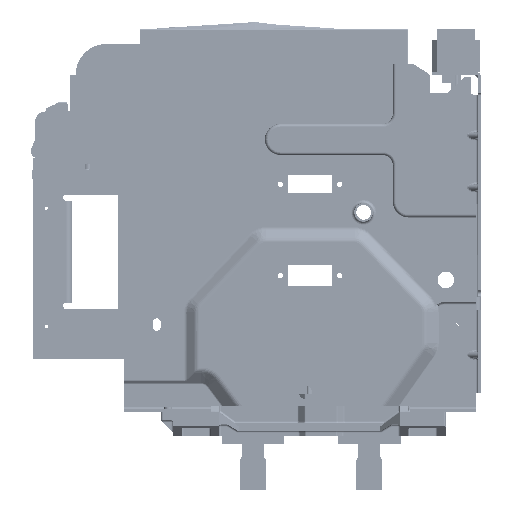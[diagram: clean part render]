
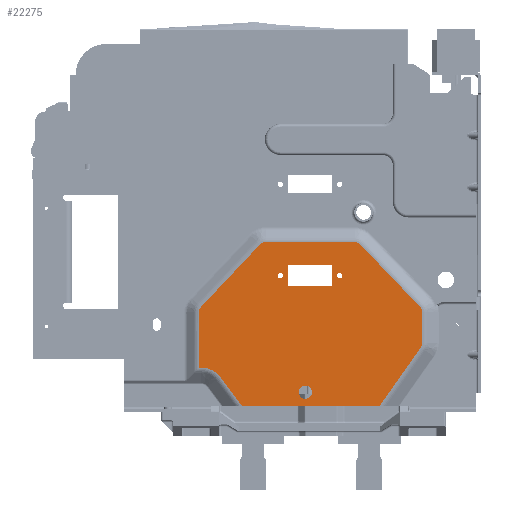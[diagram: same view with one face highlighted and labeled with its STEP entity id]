
A CAD part, left-side view. The second image highlights one B-rep face of the part: STEP entity #22275.
In plain terms, the highlighted planar face has unit normal (-1, 0, 0) as drawn and (0, 1, 0) by its records, which use the part's own axes.
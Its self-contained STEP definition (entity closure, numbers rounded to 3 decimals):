
#14700=CARTESIAN_POINT('',(-110.668,10.5,152.));
#14701=DIRECTION('',(0.,-1.,0.));
#14702=DIRECTION('',(0.,0.,1.));
#14703=AXIS2_PLACEMENT_3D('',#14700,#14701,#14702);
#14726=CARTESIAN_POINT('',(-171.,10.5,118.511));
#14731=DIRECTION('',(-0.818,0.,-0.575));
#14732=VECTOR('',#14731,68.612);
#14733=CARTESIAN_POINT('',(-114.889,10.5,157.997));
#14734=LINE('',#14733,#14732);
#14746=DIRECTION('',(0.,0.,1.));
#14747=VECTOR('',#14746,132.678);
#14748=CARTESIAN_POINT('',(-171.,10.5,-14.167));
#14749=LINE('',#14748,#14747);
#14753=CARTESIAN_POINT('',(-158.,10.5,47.));
#14754=DIRECTION('',(0.,1.,0.));
#14755=DIRECTION('',(1.,0.,0.));
#14756=AXIS2_PLACEMENT_3D('',#14753,#14754,#14755);
#14761=CARTESIAN_POINT('',(-158.,10.5,47.));
#14762=DIRECTION('',(0.,1.,0.));
#14763=DIRECTION('',(-1.,0.,0.));
#14764=AXIS2_PLACEMENT_3D('',#14761,#14762,#14763);
#14769=DIRECTION('',(0.,0.,1.));
#14770=VECTOR('',#14769,43.);
#14771=CARTESIAN_POINT('',(-56.,10.5,30.));
#14772=LINE('',#14771,#14770);
#14776=DIRECTION('',(1.,0.,0.));
#14777=VECTOR('',#14776,20.);
#14778=CARTESIAN_POINT('',(-56.,10.5,73.));
#14779=LINE('',#14778,#14777);
#14783=DIRECTION('',(0.,0.,-1.));
#14784=VECTOR('',#14783,43.);
#14785=CARTESIAN_POINT('',(-36.,10.5,73.));
#14786=LINE('',#14785,#14784);
#14790=DIRECTION('',(-1.,0.,0.));
#14791=VECTOR('',#14790,20.);
#14792=CARTESIAN_POINT('',(-36.,10.5,30.));
#14793=LINE('',#14792,#14791);
#14797=CARTESIAN_POINT('',(-46.,10.5,80.));
#14798=DIRECTION('',(0.,1.,0.));
#14799=DIRECTION('',(1.,0.,0.));
#14800=AXIS2_PLACEMENT_3D('',#14797,#14798,#14799);
#14805=CARTESIAN_POINT('',(-46.,10.5,80.));
#14806=DIRECTION('',(0.,1.,0.));
#14807=DIRECTION('',(-1.,0.,0.));
#14808=AXIS2_PLACEMENT_3D('',#14805,#14806,#14807);
#14813=CARTESIAN_POINT('',(-46.,10.5,23.));
#14814=DIRECTION('',(0.,1.,0.));
#14815=DIRECTION('',(1.,0.,0.));
#14816=AXIS2_PLACEMENT_3D('',#14813,#14814,#14815);
#14821=CARTESIAN_POINT('',(-46.,10.5,23.));
#14822=DIRECTION('',(0.,1.,0.));
#14823=DIRECTION('',(-1.,0.,0.));
#14824=AXIS2_PLACEMENT_3D('',#14821,#14822,#14823);
#14836=DIRECTION('',(1.,0.,0.));
#14837=VECTOR('',#14836,53.382);
#14838=CARTESIAN_POINT('',(-134.333,10.5,-55.333));
#14839=LINE('',#14838,#14837);
#14848=CARTESIAN_POINT('',(-134.333,10.5,-55.333));
#14871=DIRECTION('',(0.,0.,-1.));
#14872=VECTOR('',#14871,2.333);
#14873=CARTESIAN_POINT('',(-134.333,10.5,-53.));
#14874=LINE('',#14873,#14872);
#14901=CARTESIAN_POINT('',(-157.,10.5,-53.));
#14902=DIRECTION('',(0.,1.,0.));
#14903=DIRECTION('',(0.6,0.,0.8));
#14904=AXIS2_PLACEMENT_3D('',#14901,#14902,#14903);
#18551=DIRECTION('',(-1.,0.,0.));
#18552=VECTOR('',#18551,29.632);
#18553=CARTESIAN_POINT('',(-81.036,10.5,159.333));
#18554=LINE('',#18553,#18552);
#18574=CARTESIAN_POINT('',(-81.036,10.5,152.));
#18575=DIRECTION('',(0.,-1.,0.));
#18576=DIRECTION('',(0.692,0.,0.722));
#18577=AXIS2_PLACEMENT_3D('',#18574,#18575,#18576);
#18597=DIRECTION('',(-0.722,0.,0.692));
#18598=VECTOR('',#18597,83.154);
#18599=CARTESIAN_POINT('',(-15.926,10.5,99.76));
#18600=LINE('',#18599,#18598);
#18620=CARTESIAN_POINT('',(-21.,10.5,94.465));
#18621=DIRECTION('',(0.,-1.,0.));
#18622=DIRECTION('',(1.,0.,0.));
#18623=AXIS2_PLACEMENT_3D('',#18620,#18621,#18622);
#18643=DIRECTION('',(0.,0.,1.));
#18644=VECTOR('',#18643,85.844);
#18645=CARTESIAN_POINT('',(-13.667,10.5,8.621));
#18646=LINE('',#18645,#18644);
#18666=CARTESIAN_POINT('',(-21.,10.5,8.621));
#18667=DIRECTION('',(0.,-1.,0.));
#18668=DIRECTION('',(0.687,0.,-0.727));
#18669=AXIS2_PLACEMENT_3D('',#18666,#18667,#18668);
#18689=DIRECTION('',(0.727,0.,0.687));
#18690=VECTOR('',#18689,82.463);
#18691=CARTESIAN_POINT('',(-75.916,10.5,-53.331));
#18692=LINE('',#18691,#18690);
#18712=CARTESIAN_POINT('',(-80.952,10.5,-48.));
#18713=DIRECTION('',(0.,-1.,0.));
#18714=DIRECTION('',(0.,0.,-1.));
#18715=AXIS2_PLACEMENT_3D('',#18712,#18713,#18714);
#19145=DIRECTION('',(0.8,0.,-0.6));
#19146=VECTOR('',#19145,34.5);
#19147=CARTESIAN_POINT('',(-171.,10.5,-14.167));
#19148=LINE('',#19147,#19146);
#19333=VERTEX_POINT('',#14726);
#19334=CARTESIAN_POINT('',(-114.889,10.5,157.997));
#19335=VERTEX_POINT('',#19334);
#19338=CARTESIAN_POINT('',(-110.668,10.5,159.333));
#19339=VERTEX_POINT('',#19338);
#19342=CARTESIAN_POINT('',(-81.036,10.5,159.333));
#19343=VERTEX_POINT('',#19342);
#19346=CARTESIAN_POINT('',(-75.962,10.5,157.295));
#19347=VERTEX_POINT('',#19346);
#19350=CARTESIAN_POINT('',(-15.926,10.5,99.76));
#19351=VERTEX_POINT('',#19350);
#19354=CARTESIAN_POINT('',(-13.667,10.5,94.465));
#19355=VERTEX_POINT('',#19354);
#19358=CARTESIAN_POINT('',(-13.667,10.5,8.621));
#19359=VERTEX_POINT('',#19358);
#19362=CARTESIAN_POINT('',(-15.965,10.5,3.289));
#19363=VERTEX_POINT('',#19362);
#19366=CARTESIAN_POINT('',(-75.916,10.5,-53.331));
#19367=VERTEX_POINT('',#19366);
#19370=CARTESIAN_POINT('',(-80.952,10.5,-55.333));
#19371=VERTEX_POINT('',#19370);
#19376=CARTESIAN_POINT('',(-143.4,10.5,
-34.867));
#19377=CARTESIAN_POINT('',(-134.333,10.5,-53.));
#19378=VERTEX_POINT('',#19376);
#19379=VERTEX_POINT('',#19377);
#19382=CARTESIAN_POINT('',(-171.,10.5,-14.167));
#19383=VERTEX_POINT('',#19382);
#19485=VERTEX_POINT('',#14848);
#19873=CARTESIAN_POINT('',(-151.653,10.5,47.));
#19874=CARTESIAN_POINT('',(-164.347,10.5,47.));
#19875=VERTEX_POINT('',#19873);
#19876=VERTEX_POINT('',#19874);
#19877=CARTESIAN_POINT('',(-56.,10.5,30.));
#19878=CARTESIAN_POINT('',(-56.,10.5,73.));
#19879=VERTEX_POINT('',#19877);
#19880=VERTEX_POINT('',#19878);
#19881=CARTESIAN_POINT('',(-36.,10.5,73.));
#19882=VERTEX_POINT('',#19881);
#19883=CARTESIAN_POINT('',(-36.,10.5,30.));
#19884=VERTEX_POINT('',#19883);
#19937=CARTESIAN_POINT('',(-43.45,10.5,80.));
#19938=CARTESIAN_POINT('',(-48.55,10.5,80.));
#19939=VERTEX_POINT('',#19937);
#19940=VERTEX_POINT('',#19938);
#19941=CARTESIAN_POINT('',(-43.45,10.5,23.));
#19942=CARTESIAN_POINT('',(-48.55,10.5,23.));
#19943=VERTEX_POINT('',#19941);
#19944=VERTEX_POINT('',#19942);
#22213=CARTESIAN_POINT('',(0.,10.5,0.));
#22214=DIRECTION('',(0.,1.,0.));
#22215=DIRECTION('',(1.,0.,0.));
#22216=AXIS2_PLACEMENT_3D('',#22213,#22214,#22215);
#22217=PLANE('',#22216);
#22219=ORIENTED_EDGE('',*,*,#22218,.T.);
#22221=ORIENTED_EDGE('',*,*,#22220,.T.);
#22223=ORIENTED_EDGE('',*,*,#22222,.T.);
#22225=ORIENTED_EDGE('',*,*,#22224,.T.);
#22227=ORIENTED_EDGE('',*,*,#22226,.T.);
#22229=ORIENTED_EDGE('',*,*,#22228,.T.);
#22231=ORIENTED_EDGE('',*,*,#22230,.T.);
#22233=ORIENTED_EDGE('',*,*,#22232,.T.);
#22235=ORIENTED_EDGE('',*,*,#22234,.T.);
#22236=ORIENTED_EDGE('',*,*,#22193,.T.);
#22237=ORIENTED_EDGE('',*,*,#22207,.T.);
#22238=ORIENTED_EDGE('',*,*,#22110,.F.);
#22240=ORIENTED_EDGE('',*,*,#22239,.T.);
#22242=ORIENTED_EDGE('',*,*,#22241,.T.);
#22244=ORIENTED_EDGE('',*,*,#22243,.T.);
#22245=EDGE_LOOP('',(#22219,#22221,#22223,#22225,#22227,#22229,#22231,#22233,
#22235,#22236,#22237,#22238,#22240,#22242,#22244));
#22246=FACE_OUTER_BOUND('',#22245,.F.);
#22248=ORIENTED_EDGE('',*,*,#22247,.T.);
#22250=ORIENTED_EDGE('',*,*,#22249,.T.);
#22251=EDGE_LOOP('',(#22248,#22250));
#22252=FACE_BOUND('',#22251,.F.);
#22254=ORIENTED_EDGE('',*,*,#22253,.T.);
#22256=ORIENTED_EDGE('',*,*,#22255,.T.);
#22258=ORIENTED_EDGE('',*,*,#22257,.T.);
#22260=ORIENTED_EDGE('',*,*,#22259,.T.);
#22261=EDGE_LOOP('',(#22254,#22256,#22258,#22260));
#22262=FACE_BOUND('',#22261,.F.);
#22264=ORIENTED_EDGE('',*,*,#22263,.T.);
#22266=ORIENTED_EDGE('',*,*,#22265,.T.);
#22267=EDGE_LOOP('',(#22264,#22266));
#22268=FACE_BOUND('',#22267,.F.);
#22270=ORIENTED_EDGE('',*,*,#22269,.T.);
#22272=ORIENTED_EDGE('',*,*,#22271,.T.);
#22273=EDGE_LOOP('',(#22270,#22272));
#22274=FACE_BOUND('',#22273,.F.);
#22275=ADVANCED_FACE('',(#22246,#22252,#22262,#22268,#22274),#22217,.T.);
#14704=CIRCLE('',#14703,7.333);
#14757=CIRCLE('',#14756,6.347);
#14765=CIRCLE('',#14764,6.347);
#14801=CIRCLE('',#14800,2.55);
#14809=CIRCLE('',#14808,2.55);
#14817=CIRCLE('',#14816,2.55);
#14825=CIRCLE('',#14824,2.55);
#14905=CIRCLE('',#14904,22.667);
#18578=CIRCLE('',#18577,7.333);
#18624=CIRCLE('',#18623,7.333);
#18670=CIRCLE('',#18669,7.333);
#18716=CIRCLE('',#18715,7.333);
#22110=EDGE_CURVE('',#19383,#19333,#14749,.T.);
#22193=EDGE_CURVE('',#19339,#19335,#14704,.T.);
#22207=EDGE_CURVE('',#19335,#19333,#14734,.T.);
#22218=EDGE_CURVE('',#19485,#19371,#14839,.T.);
#22220=EDGE_CURVE('',#19371,#19367,#18716,.T.);
#22222=EDGE_CURVE('',#19367,#19363,#18692,.T.);
#22224=EDGE_CURVE('',#19363,#19359,#18670,.T.);
#22226=EDGE_CURVE('',#19359,#19355,#18646,.T.);
#22228=EDGE_CURVE('',#19355,#19351,#18624,.T.);
#22230=EDGE_CURVE('',#19351,#19347,#18600,.T.);
#22232=EDGE_CURVE('',#19347,#19343,#18578,.T.);
#22234=EDGE_CURVE('',#19343,#19339,#18554,.T.);
#22239=EDGE_CURVE('',#19383,#19378,#19148,.T.);
#22241=EDGE_CURVE('',#19378,#19379,#14905,.T.);
#22243=EDGE_CURVE('',#19379,#19485,#14874,.T.);
#22247=EDGE_CURVE('',#19875,#19876,#14757,.T.);
#22249=EDGE_CURVE('',#19876,#19875,#14765,.T.);
#22253=EDGE_CURVE('',#19879,#19880,#14772,.T.);
#22255=EDGE_CURVE('',#19880,#19882,#14779,.T.);
#22257=EDGE_CURVE('',#19882,#19884,#14786,.T.);
#22259=EDGE_CURVE('',#19884,#19879,#14793,.T.);
#22263=EDGE_CURVE('',#19939,#19940,#14801,.T.);
#22265=EDGE_CURVE('',#19940,#19939,#14809,.T.);
#22269=EDGE_CURVE('',#19943,#19944,#14817,.T.);
#22271=EDGE_CURVE('',#19944,#19943,#14825,.T.);
